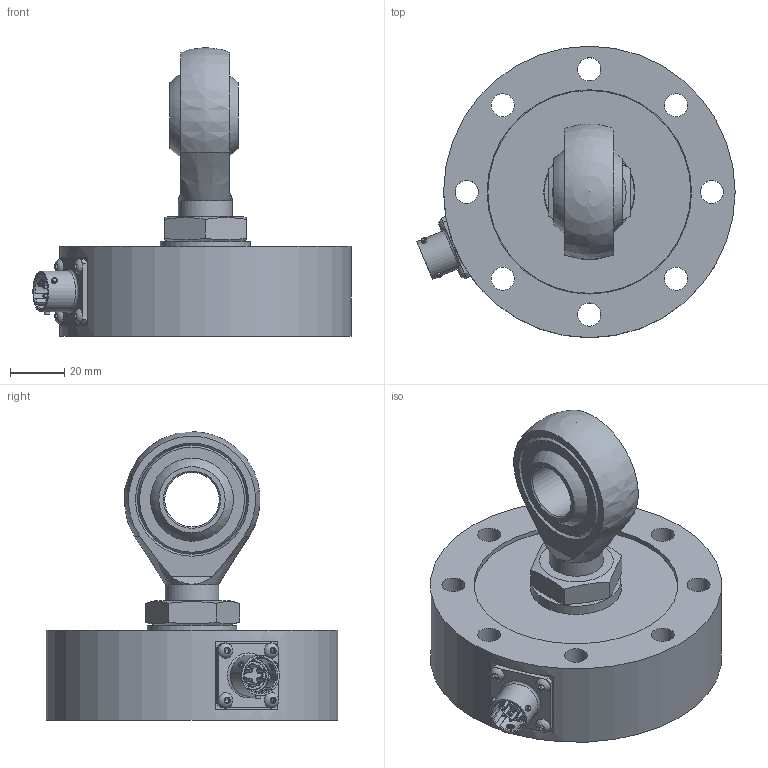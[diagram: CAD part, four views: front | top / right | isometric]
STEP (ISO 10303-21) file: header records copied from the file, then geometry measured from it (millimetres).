
FILE_DESCRIPTION(/* description */ (''),/* implementation_level */ '2;1');
FILE_NAME(/* name */ 'I:/New Datasheets/STEP Models/Pending models/DSCC 5kN to 50kN Load cell with single rod end.step',/* time_stamp */ '2019-09-06T13:43:17+01:00',/* author */ (''),/* organization */ (''),/* preprocessor_version */ 'ST-DEVELOPER v18',/* originating_system */ 'Autodesk Translation Framework v8.6.0.1094',/* authorisation */ '');
FILE_SCHEMA (('AUTOMOTIVE_DESIGN { 1 0 10303 214 3 1 1 }'));
Length unit declared in the file: millimetre
Products named in the file (2): DSCC Size 1 Space Model; DSCC-50kN with halfnut an single rod end
Assembly tree (1 placements, depth 2):
  DSCC Size 1 Space Model
    DSCC-50kN with halfnut an single rod end
Bounding box: 116.79 x 107 x 106 mm (x, y, z)
Volume: 296086.3 mm3; surface area: 57865.9 mm2
Topology: 1 solids, 17 shells, 624 faces, 1657 edges, 1128 vertices
Faces by surface type: plane 286, cylinder 160, bspline 81, cone 50, sphere 25, torus 22
Full cylindrical faces by diameter (mm): 1 x3, 1.009 x6, 1.165 x6, 1.2 x6, 1.4 x6, 1.52 x3, 1.6 x3, 2 x12, 2.03 x3, 2.2 x12, 2.529 x3, 3 x5, 3.2 x4, 8.5 x8, 10.25 x2, 10.9 x1, 11.05 x1, 11.35 x1, 12.55 x1, 13.85 x1, 13.9 x1, 14 x1, 14.95 x1, 15 x1, 19.791 x14, 20 x1, 20.293 x12, 33 x2, 33.5 x2, 74.5 x2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
Entity records: 32149 total; most frequent: CARTESIAN_POINT 16811, ORIENTED_EDGE 3298, DIRECTION 2975, EDGE_CURVE 1649, VERTEX_POINT 1128, AXIS2_PLACEMENT_3D 1128, EDGE_LOOP 747, LINE 719
